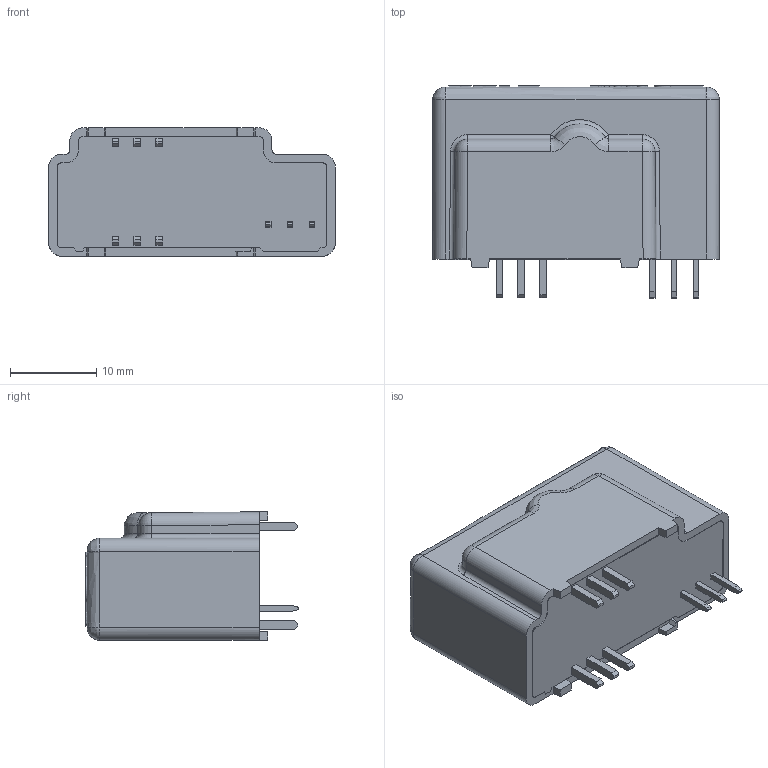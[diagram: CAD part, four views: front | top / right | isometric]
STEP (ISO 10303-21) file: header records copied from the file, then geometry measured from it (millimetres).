
FILE_DESCRIPTION(('CoCreate Modeling STEP Export'),'2;1');
FILE_NAME('LAH 25-NP_blackbox.stp','2009-11-10T12:11:22',(''),(''),'CoCreate Modeling STEP processor for AP214 (Solid Model)','CoCreate Modeling 16.00A 16-Aug-2008 (C) Parametric Technology GmbH','');
FILE_SCHEMA(('AUTOMOTIVE_DESIGN { 1 0 10303 214 1 1 1 1 }'));
Length unit declared in the file: millimetre
Products named in the file (2): boitier_T2
Assembly tree (1 placements, depth 2):
  boitier_T2
    boitier_T2
Bounding box: 33.3 x 24.7 x 14.94 mm (x, y, z)
Volume: 8850.2 mm3; surface area: 2866.2 mm2
Topology: 1 solids, 2 shells, 1039 faces, 2818 edges, 1864 vertices
Faces by surface type: plane 902, cylinder 106, bspline 11, extrusion 9, torus 7, sphere 4
Entity records: 33951 total; most frequent: CARTESIAN_POINT 7573, ORIENTED_EDGE 5628, DIRECTION 4783, EDGE_CURVE 2814, VECTOR 2553, LINE 2544, VERTEX_POINT 1864, EDGE_LOOP 1124
